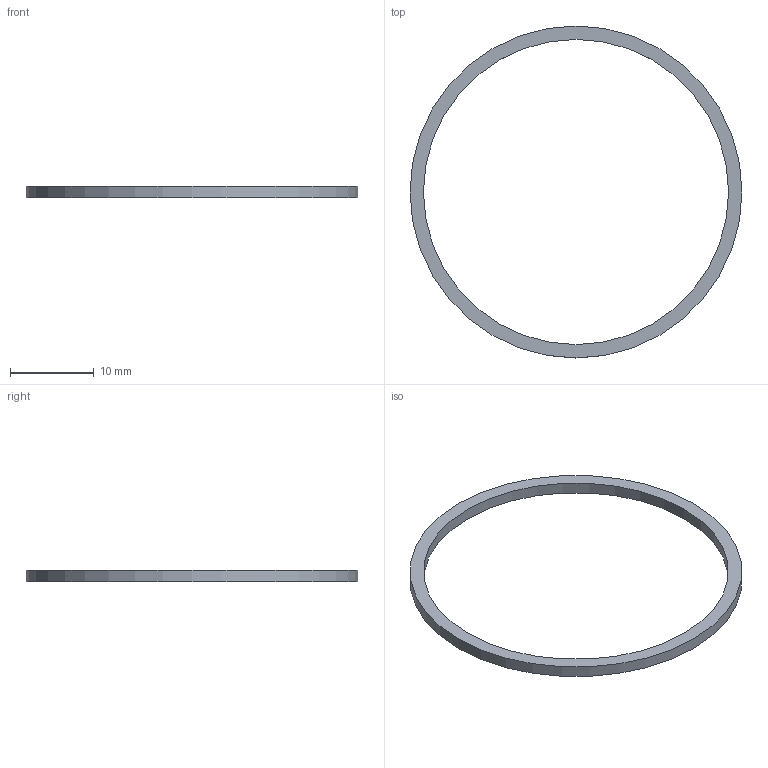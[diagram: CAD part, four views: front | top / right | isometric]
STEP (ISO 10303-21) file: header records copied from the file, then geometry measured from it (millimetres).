
FILE_DESCRIPTION(('Open CASCADE Model'),'2;1');
FILE_NAME('Open CASCADE Shape Model','2026-09-06T11:30:37',('Author'),( 'Open CASCADE'),'Open CASCADE STEP processor 7.7','Open CASCADE 7.7' ,'Unknown');
FILE_SCHEMA(('AUTOMOTIVE_DESIGN { 1 0 10303 214 1 1 1 1 }'));
Length unit declared in the file: millimetre
Products named in the file (1): Open CASCADE STEP translator 7.7 22
Bounding box: 39.6 x 39.6 x 1.4 mm (x, y, z)
Volume: 267.4 mm3; surface area: 716.3 mm2
Topology: 1 solids, 1 shells, 4 faces, 6 edges, 4 vertices
Faces by surface type: cylinder 2, plane 2
Full cylindrical faces by diameter (mm): 36.4 x1, 39.6 x1
Entity records: 192 total; most frequent: CARTESIAN_POINT 39, DIRECTION 30, ORIENTED_EDGE 12, PCURVE 12, DEFINITIONAL_REPRESENTATION 12, LINE 10, VECTOR 10, AXIS2_PLACEMENT_3D 9
